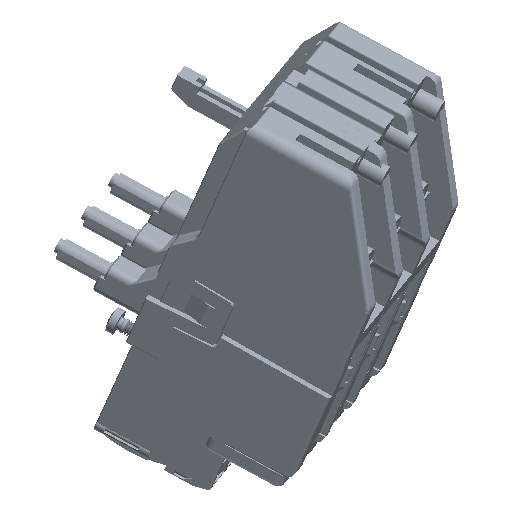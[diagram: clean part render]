
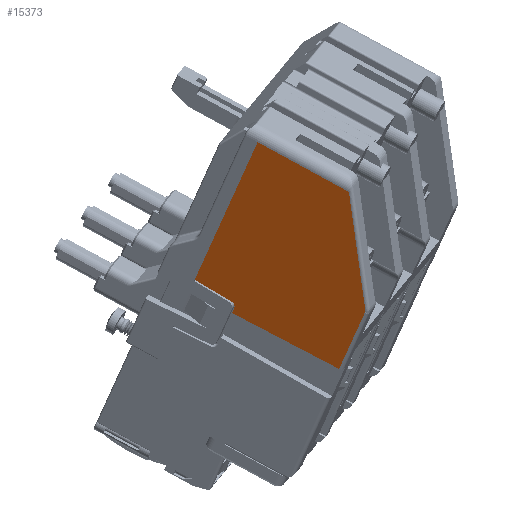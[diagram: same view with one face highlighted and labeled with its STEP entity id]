
A CAD part, left-side view. The second image highlights one B-rep face of the part: STEP entity #15373.
In plain terms, the highlighted planar face has unit normal (-0.851, 0.334, -0.405) as drawn and (-1, 0, 0) by its records, which use the part's own axes.
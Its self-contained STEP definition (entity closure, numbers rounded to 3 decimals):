
#9449=B_SPLINE_CURVE_WITH_KNOTS('',3,(#177779,#177780,#177781,#177782),.UNSPECIFIED.,
 .F.,.F.,(4,4),(0.,1.),.UNSPECIFIED.);
#12477=CIRCLE('',#133607,1.5);
#15373=ADVANCED_FACE('',(#26722),#21722,.T.);
#21722=PLANE('',#133608);
#26722=FACE_OUTER_BOUND('',#32815,.T.);
#32815=EDGE_LOOP('',(#43603,#43604,#43605,#43606,#43607,#43608,#43609,#43610,
#43611));
#43603=ORIENTED_EDGE('',*,*,#89467,.T.);
#43604=ORIENTED_EDGE('',*,*,#88557,.T.);
#43605=ORIENTED_EDGE('',*,*,#87997,.T.);
#43606=ORIENTED_EDGE('',*,*,#89468,.T.);
#43607=ORIENTED_EDGE('',*,*,#89469,.F.);
#43608=ORIENTED_EDGE('',*,*,#89470,.T.);
#43609=ORIENTED_EDGE('',*,*,#89471,.F.);
#43610=ORIENTED_EDGE('',*,*,#88581,.T.);
#43611=ORIENTED_EDGE('',*,*,#89472,.F.);
#75937=VERTEX_POINT('',#176535);
#75938=VERTEX_POINT('',#176537);
#76280=VERTEX_POINT('',#177783);
#76297=VERTEX_POINT('',#177832);
#76299=VERTEX_POINT('',#177835);
#76850=VERTEX_POINT('',#179606);
#76851=VERTEX_POINT('',#179608);
#76852=VERTEX_POINT('',#179610);
#76853=VERTEX_POINT('',#179612);
#87997=EDGE_CURVE('',#75938,#75937,#105651,.T.);
#88557=EDGE_CURVE('',#76280,#75938,#9449,.T.);
#88581=EDGE_CURVE('',#76299,#76297,#106125,.T.);
#89467=EDGE_CURVE('',#76850,#76280,#106936,.T.);
#89468=EDGE_CURVE('',#75937,#76851,#106937,.T.);
#89469=EDGE_CURVE('',#76852,#76851,#106938,.T.);
#89470=EDGE_CURVE('',#76852,#76853,#106939,.T.);
#89471=EDGE_CURVE('',#76299,#76853,#12477,.T.);
#89472=EDGE_CURVE('',#76850,#76297,#106940,.T.);
#105651=LINE('',#176536,#119621);
#106125=LINE('',#177834,#120095);
#106936=LINE('',#179605,#120906);
#106937=LINE('',#179607,#120907);
#106938=LINE('',#179609,#120908);
#106939=LINE('',#179611,#120909);
#106940=LINE('',#179614,#120910);
#119621=VECTOR('',#143661,1.);
#120095=VECTOR('',#144743,1.);
#120906=VECTOR('',#146346,1.);
#120907=VECTOR('',#146347,1.);
#120908=VECTOR('',#146348,1.);
#120909=VECTOR('',#146349,1.);
#120910=VECTOR('',#146352,1.);
#133607=AXIS2_PLACEMENT_3D('',#179613,#146350,#146351);
#133608=AXIS2_PLACEMENT_3D('',#179615,#146353,#146354);
#143661=DIRECTION('',(0.,0.5,0.866));
#144743=DIRECTION('',(0.,0.,-1.));
#146346=DIRECTION('',(0.,0.,1.));
#146347=DIRECTION('',(0.,1.,0.));
#146348=DIRECTION('',(0.,0.,1.));
#146349=DIRECTION('',(0.,-0.999,-0.04));
#146350=DIRECTION('',(-1.,0.,0.));
#146351=DIRECTION('',(0.,0.,-1.));
#146352=DIRECTION('',(0.,1.,-0.02));
#146353=DIRECTION('',(-1.,0.,0.));
#146354=DIRECTION('',(0.,-1.,0.));
#176535=CARTESIAN_POINT('',(-35.,16.91,58.3));
#176536=CARTESIAN_POINT('',(-35.,0.268,29.496));
#176537=CARTESIAN_POINT('',(-35.,0.268,29.496));
#177779=CARTESIAN_POINT('',(-35.,0.,28.496));
#177780=CARTESIAN_POINT('',(-35.,0.,28.847));
#177781=CARTESIAN_POINT('',(-35.,0.092,29.191));
#177782=CARTESIAN_POINT('',(-35.,0.268,29.496));
#177783=CARTESIAN_POINT('',(-35.,0.,28.496));
#177832=CARTESIAN_POINT('',(-35.,31.5,9.3));
#177834=CARTESIAN_POINT('',(-35.,31.5,13.8));
#177835=CARTESIAN_POINT('',(-35.,31.5,10.759));
#179605=CARTESIAN_POINT('',(-35.,0.,19.213));
#179606=CARTESIAN_POINT('',(-35.,0.,9.93));
#179607=CARTESIAN_POINT('',(-35.,30.275,58.3));
#179608=CARTESIAN_POINT('',(-35.,44.,58.3));
#179609=CARTESIAN_POINT('',(-35.,44.,6.3));
#179610=CARTESIAN_POINT('',(-35.,44.,12.7));
#179611=CARTESIAN_POINT('',(-35.,38.47,12.479));
#179612=CARTESIAN_POINT('',(-35.,32.94,12.258));
#179613=CARTESIAN_POINT('',(-35.,33.,10.759));
#179614=CARTESIAN_POINT('',(-35.,15.25,9.625));
#179615=CARTESIAN_POINT('',(-35.,44.88,-31.96));
